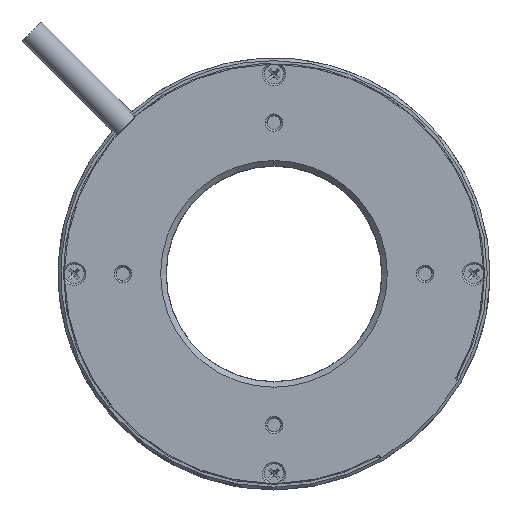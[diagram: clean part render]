
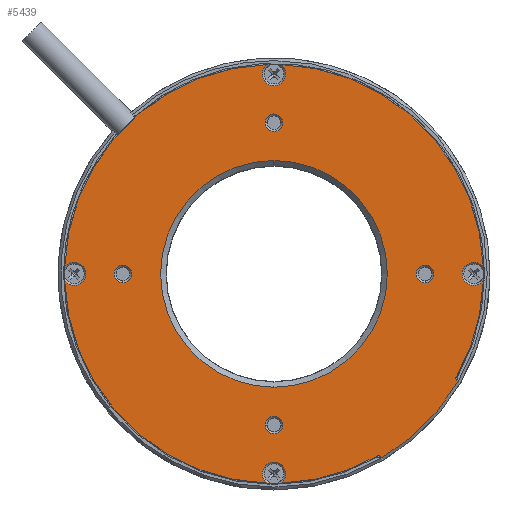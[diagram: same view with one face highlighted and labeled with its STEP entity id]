
A CAD part, top view. The second image highlights one B-rep face of the part: STEP entity #5439.
In plain terms, the highlighted planar face has unit normal (0, 0, 1).
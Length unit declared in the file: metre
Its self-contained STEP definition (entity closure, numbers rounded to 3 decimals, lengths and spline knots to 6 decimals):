
#297=CARTESIAN_POINT('',(0.037,0.,0.002));
#298=DIRECTION('',(0.,0.,-1.));
#299=DIRECTION('',(0.829,-0.56,0.));
#300=AXIS2_PLACEMENT_3D('',#297,#298,#299);
#383=CARTESIAN_POINT('',(0.,0.037,0.002));
#384=DIRECTION('',(0.,0.,-1.));
#385=DIRECTION('',(0.56,0.829,0.));
#386=AXIS2_PLACEMENT_3D('',#383,#384,#385);
#687=CARTESIAN_POINT('',(0.,0.,0.002));
#688=DIRECTION('',(0.,0.,-1.));
#689=DIRECTION('',(0.,-1.,0.));
#690=AXIS2_PLACEMENT_3D('',#687,#688,#689);
#692=CARTESIAN_POINT('',(0.,0.,0.002));
#693=DIRECTION('',(0.,0.,-1.));
#694=DIRECTION('',(0.,1.,0.));
#695=AXIS2_PLACEMENT_3D('',#692,#693,#694);
#697=CARTESIAN_POINT('',(-0.028,0.,0.002));
#698=DIRECTION('',(0.,0.,-1.));
#699=DIRECTION('',(0.,-1.,0.));
#700=AXIS2_PLACEMENT_3D('',#697,#698,#699);
#702=CARTESIAN_POINT('',(-0.028,0.,0.002));
#703=DIRECTION('',(0.,0.,-1.));
#704=DIRECTION('',(0.,1.,0.));
#705=AXIS2_PLACEMENT_3D('',#702,#703,#704);
#707=CARTESIAN_POINT('',(0.,-0.028,0.002));
#708=DIRECTION('',(0.,0.,-1.));
#709=DIRECTION('',(1.,0.,0.));
#710=AXIS2_PLACEMENT_3D('',#707,#708,#709);
#712=CARTESIAN_POINT('',(0.,-0.028,0.002));
#713=DIRECTION('',(0.,0.,-1.));
#714=DIRECTION('',(-1.,0.,0.));
#715=AXIS2_PLACEMENT_3D('',#712,#713,#714);
#717=CARTESIAN_POINT('',(0.028,0.,0.002));
#718=DIRECTION('',(0.,0.,-1.));
#719=DIRECTION('',(0.,1.,0.));
#720=AXIS2_PLACEMENT_3D('',#717,#718,#719);
#722=CARTESIAN_POINT('',(0.028,0.,0.002));
#723=DIRECTION('',(0.,0.,-1.));
#724=DIRECTION('',(0.,-1.,0.));
#725=AXIS2_PLACEMENT_3D('',#722,#723,#724);
#727=CARTESIAN_POINT('',(0.,0.028,0.002));
#728=DIRECTION('',(0.,0.,-1.));
#729=DIRECTION('',(-1.,0.,0.));
#730=AXIS2_PLACEMENT_3D('',#727,#728,#729);
#732=CARTESIAN_POINT('',(0.,0.028,0.002));
#733=DIRECTION('',(0.,0.,-1.));
#734=DIRECTION('',(1.,0.,0.));
#735=AXIS2_PLACEMENT_3D('',#732,#733,#734);
#737=DIRECTION('',(-0.707,0.707,0.));
#738=VECTOR('',#737,0.000342);
#739=CARTESIAN_POINT('',(0.034092,-0.01995,0.002));
#740=LINE('',#739,#738);
#741=CARTESIAN_POINT('',(0.,0.,0.002));
#742=DIRECTION('',(0.,0.,1.));
#743=DIRECTION('',(0.505,-0.863,0.));
#744=AXIS2_PLACEMENT_3D('',#741,#742,#743);
#746=DIRECTION('',(0.707,-0.707,0.));
#747=VECTOR('',#746,0.000342);
#748=CARTESIAN_POINT('',(0.019708,-0.03385,0.002));
#749=LINE('',#748,#747);
#750=CARTESIAN_POINT('',(0.019354,-0.034204,0.002));
#751=DIRECTION('',(0.,0.,-1.));
#752=DIRECTION('',(-0.492,0.87,0.));
#753=AXIS2_PLACEMENT_3D('',#750,#751,#752);
#755=CARTESIAN_POINT('',(0.,0.,0.002));
#756=DIRECTION('',(0.,0.,1.));
#757=DIRECTION('',(0.031,-1.,0.));
#758=AXIS2_PLACEMENT_3D('',#755,#756,#757);
#760=CARTESIAN_POINT('',(0.,0.,0.002));
#761=DIRECTION('',(0.,0.,1.));
#762=DIRECTION('',(-1.,-0.031,0.));
#763=AXIS2_PLACEMENT_3D('',#760,#761,#762);
#765=CARTESIAN_POINT('',(0.,0.,0.002));
#766=DIRECTION('',(0.,0.,1.));
#767=DIRECTION('',(-0.031,1.,0.));
#768=AXIS2_PLACEMENT_3D('',#765,#766,#767);
#770=CARTESIAN_POINT('',(0.,0.,0.002));
#771=DIRECTION('',(0.,0.,1.));
#772=DIRECTION('',(1.,0.031,0.));
#773=AXIS2_PLACEMENT_3D('',#770,#771,#772);
#775=CARTESIAN_POINT('',(0.,0.,0.002));
#776=DIRECTION('',(0.,0.,1.));
#777=DIRECTION('',(0.87,-0.492,0.));
#778=AXIS2_PLACEMENT_3D('',#775,#776,#777);
#780=CARTESIAN_POINT('',(0.034204,-0.019354,0.002));
#781=DIRECTION('',(0.,0.,-1.));
#782=DIRECTION('',(-0.707,-0.707,0.));
#783=AXIS2_PLACEMENT_3D('',#780,#781,#782);
#2842=CARTESIAN_POINT('',(0.,-0.037,0.002));
#2843=DIRECTION('',(0.,0.,-1.));
#2844=DIRECTION('',(-0.56,-0.829,0.));
#2845=AXIS2_PLACEMENT_3D('',#2842,#2843,#2844);
#3169=CARTESIAN_POINT('',(-0.037,0.,0.002));
#3170=DIRECTION('',(0.,0.,-1.));
#3171=DIRECTION('',(-0.829,0.56,0.));
#3172=AXIS2_PLACEMENT_3D('',#3169,#3170,#3171);
#3559=CARTESIAN_POINT('',(0.01995,-0.034092,0.002));
#3560=CARTESIAN_POINT('',(0.034092,-0.01995,0.002));
#3561=VERTEX_POINT('',#3559);
#3562=VERTEX_POINT('',#3560);
#3563=CARTESIAN_POINT('',(0.019708,-0.03385,0.002));
#3564=VERTEX_POINT('',#3563);
#3565=CARTESIAN_POINT('',(0.019108,-0.033769,0.002));
#3566=VERTEX_POINT('',#3565);
#3567=CARTESIAN_POINT('',(0.001204,-0.038781,0.002));
#3568=VERTEX_POINT('',#3567);
#3569=CARTESIAN_POINT('',(-0.038781,-0.001204,0.002));
#3570=CARTESIAN_POINT('',(-0.001204,-0.038781,0.002));
#3571=VERTEX_POINT('',#3569);
#3572=VERTEX_POINT('',#3570);
#3573=CARTESIAN_POINT('',(-0.001204,0.038781,0.002));
#3574=CARTESIAN_POINT('',(-0.038781,0.001204,0.002));
#3575=VERTEX_POINT('',#3573);
#3576=VERTEX_POINT('',#3574);
#3577=CARTESIAN_POINT('',(0.038781,0.001204,0.002));
#3578=CARTESIAN_POINT('',(0.001204,0.038781,0.002));
#3579=VERTEX_POINT('',#3577);
#3580=VERTEX_POINT('',#3578);
#3581=CARTESIAN_POINT('',(0.033769,-0.019108,0.002));
#3582=CARTESIAN_POINT('',(0.038781,-0.001204,0.002));
#3583=VERTEX_POINT('',#3581);
#3584=VERTEX_POINT('',#3582);
#3585=CARTESIAN_POINT('',(0.03385,-0.019708,0.002));
#3586=VERTEX_POINT('',#3585);
#3587=CARTESIAN_POINT('',(0.001625,0.028,0.002));
#3588=CARTESIAN_POINT('',(-0.001625,0.028,0.002));
#3589=VERTEX_POINT('',#3587);
#3590=VERTEX_POINT('',#3588);
#3591=CARTESIAN_POINT('',(0.028,-0.001625,0.002));
#3592=CARTESIAN_POINT('',(0.028,0.001625,0.002));
#3593=VERTEX_POINT('',#3591);
#3594=VERTEX_POINT('',#3592);
#3595=CARTESIAN_POINT('',(-0.001625,-0.028,0.002));
#3596=CARTESIAN_POINT('',(0.001625,-0.028,0.002));
#3597=VERTEX_POINT('',#3595);
#3598=VERTEX_POINT('',#3596);
#3599=CARTESIAN_POINT('',(-0.028,0.001625,0.002));
#3600=CARTESIAN_POINT('',(-0.028,-0.001625,0.002));
#3601=VERTEX_POINT('',#3599);
#3602=VERTEX_POINT('',#3600);
#3603=CARTESIAN_POINT('',(0.,0.021,0.002));
#3604=CARTESIAN_POINT('',(0.,-0.021,0.002));
#3605=VERTEX_POINT('',#3603);
#3606=VERTEX_POINT('',#3604);
#5381=CARTESIAN_POINT('',(0.,0.,0.002));
#5382=DIRECTION('',(0.,0.,-1.));
#5383=DIRECTION('',(0.,-1.,0.));
#5384=AXIS2_PLACEMENT_3D('',#5381,#5382,#5383);
#5385=PLANE('',#5384);
#5387=ORIENTED_EDGE('',*,*,#5386,.F.);
#5389=ORIENTED_EDGE('',*,*,#5388,.F.);
#5391=ORIENTED_EDGE('',*,*,#5390,.F.);
#5393=ORIENTED_EDGE('',*,*,#5392,.F.);
#5394=ORIENTED_EDGE('',*,*,#4870,.F.);
#5396=ORIENTED_EDGE('',*,*,#5395,.F.);
#5397=ORIENTED_EDGE('',*,*,#4862,.F.);
#5399=ORIENTED_EDGE('',*,*,#5398,.F.);
#5400=ORIENTED_EDGE('',*,*,#4854,.F.);
#5401=ORIENTED_EDGE('',*,*,#4933,.F.);
#5402=ORIENTED_EDGE('',*,*,#4887,.F.);
#5403=ORIENTED_EDGE('',*,*,#4810,.F.);
#5404=ORIENTED_EDGE('',*,*,#4882,.F.);
#5406=ORIENTED_EDGE('',*,*,#5405,.F.);
#5407=EDGE_LOOP('',(#5387,#5389,#5391,#5393,#5394,#5396,#5397,#5399,#5400,#5401,
#5402,#5403,#5404,#5406));
#5408=FACE_OUTER_BOUND('',#5407,.F.);
#5410=ORIENTED_EDGE('',*,*,#5409,.F.);
#5412=ORIENTED_EDGE('',*,*,#5411,.F.);
#5413=EDGE_LOOP('',(#5410,#5412));
#5414=FACE_BOUND('',#5413,.F.);
#5416=ORIENTED_EDGE('',*,*,#5415,.F.);
#5418=ORIENTED_EDGE('',*,*,#5417,.F.);
#5419=EDGE_LOOP('',(#5416,#5418));
#5420=FACE_BOUND('',#5419,.F.);
#5422=ORIENTED_EDGE('',*,*,#5421,.F.);
#5424=ORIENTED_EDGE('',*,*,#5423,.F.);
#5425=EDGE_LOOP('',(#5422,#5424));
#5426=FACE_BOUND('',#5425,.F.);
#5428=ORIENTED_EDGE('',*,*,#5427,.F.);
#5430=ORIENTED_EDGE('',*,*,#5429,.F.);
#5431=EDGE_LOOP('',(#5428,#5430));
#5432=FACE_BOUND('',#5431,.F.);
#5434=ORIENTED_EDGE('',*,*,#5433,.F.);
#5436=ORIENTED_EDGE('',*,*,#5435,.F.);
#5437=EDGE_LOOP('',(#5434,#5436));
#5438=FACE_BOUND('',#5437,.F.);
#5439=ADVANCED_FACE('',(#5408,#5414,#5420,#5426,#5432,#5438),#5385,.F.);
#301=CIRCLE('',#300,0.00215);
#387=CIRCLE('',#386,0.00215);
#691=CIRCLE('',#690,0.021);
#696=CIRCLE('',#695,0.021);
#701=CIRCLE('',#700,0.001625);
#706=CIRCLE('',#705,0.001625);
#711=CIRCLE('',#710,0.001625);
#716=CIRCLE('',#715,0.001625);
#721=CIRCLE('',#720,0.001625);
#726=CIRCLE('',#725,0.001625);
#731=CIRCLE('',#730,0.001625);
#736=CIRCLE('',#735,0.001625);
#745=CIRCLE('',#744,0.0395);
#754=CIRCLE('',#753,0.0005);
#759=CIRCLE('',#758,0.0388);
#764=CIRCLE('',#763,0.0388);
#769=CIRCLE('',#768,0.0388);
#774=CIRCLE('',#773,0.0388);
#779=CIRCLE('',#778,0.0388);
#784=CIRCLE('',#783,0.0005);
#2846=CIRCLE('',#2845,0.00215);
#3173=CIRCLE('',#3172,0.00215);
#4810=EDGE_CURVE('',#3584,#3579,#301,.T.);
#4854=EDGE_CURVE('',#3575,#3576,#769,.T.);
#4862=EDGE_CURVE('',#3571,#3572,#764,.T.);
#4870=EDGE_CURVE('',#3568,#3566,#759,.T.);
#4882=EDGE_CURVE('',#3583,#3584,#779,.T.);
#4887=EDGE_CURVE('',#3579,#3580,#774,.T.);
#4933=EDGE_CURVE('',#3580,#3575,#387,.T.);
#5386=EDGE_CURVE('',#3562,#3586,#740,.T.);
#5388=EDGE_CURVE('',#3561,#3562,#745,.T.);
#5390=EDGE_CURVE('',#3564,#3561,#749,.T.);
#5392=EDGE_CURVE('',#3566,#3564,#754,.T.);
#5395=EDGE_CURVE('',#3572,#3568,#2846,.T.);
#5398=EDGE_CURVE('',#3576,#3571,#3173,.T.);
#5405=EDGE_CURVE('',#3586,#3583,#784,.T.);
#5409=EDGE_CURVE('',#3602,#3601,#701,.T.);
#5411=EDGE_CURVE('',#3601,#3602,#706,.T.);
#5415=EDGE_CURVE('',#3598,#3597,#711,.T.);
#5417=EDGE_CURVE('',#3597,#3598,#716,.T.);
#5421=EDGE_CURVE('',#3594,#3593,#721,.T.);
#5423=EDGE_CURVE('',#3593,#3594,#726,.T.);
#5427=EDGE_CURVE('',#3590,#3589,#731,.T.);
#5429=EDGE_CURVE('',#3589,#3590,#736,.T.);
#5433=EDGE_CURVE('',#3606,#3605,#691,.T.);
#5435=EDGE_CURVE('',#3605,#3606,#696,.T.);
